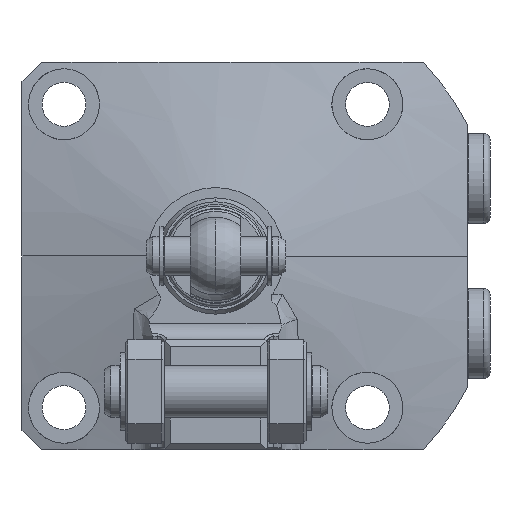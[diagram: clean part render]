
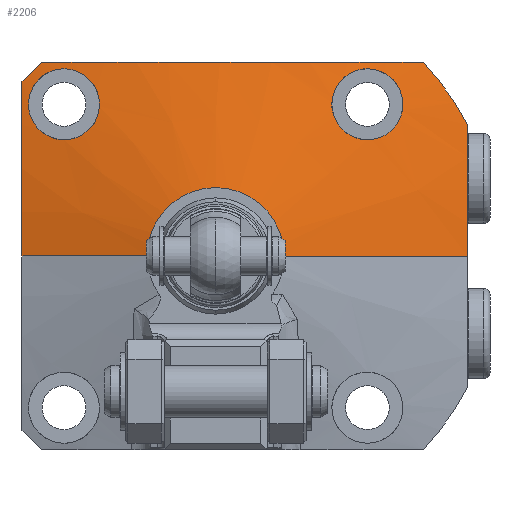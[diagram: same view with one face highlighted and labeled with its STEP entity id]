
A CAD part, left-side view. The second image highlights one B-rep face of the part: STEP entity #2206.
In plain terms, the highlighted conical face has half-angle 75 degrees and reference radius 44 mm.
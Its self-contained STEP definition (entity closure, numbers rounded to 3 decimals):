
#1509=B_SPLINE_CURVE_WITH_KNOTS('',3,(#11310,#11311,#11312,#11313,#11314,
#11315,#11316,#11317,#11318,#11319),.UNSPECIFIED.,.F.,.F.,(4,2,2,2,4),(0.,
0.25,0.5,0.75,1.),.UNSPECIFIED.);
#1510=B_SPLINE_CURVE_WITH_KNOTS('',3,(#11328,#11329,#11330,#11331,#11332,
#11333,#11334,#11335,#11336,#11337),.UNSPECIFIED.,.F.,.F.,(4,2,2,2,4),(0.,
0.25,0.5,0.75,1.),.UNSPECIFIED.);
#1518=B_SPLINE_CURVE_WITH_KNOTS('',3,(#11580,#11581,#11582,#11583),
 .UNSPECIFIED.,.F.,.F.,(4,4),(0.,1.),.UNSPECIFIED.);
#1519=B_SPLINE_CURVE_WITH_KNOTS('',3,(#11587,#11588,#11589,#11590,#11591,
#11592),.UNSPECIFIED.,.F.,.F.,(4,2,4),(0.,0.5,1.),.UNSPECIFIED.);
#1520=B_SPLINE_CURVE_WITH_KNOTS('',3,(#11594,#11595,#11596,#11597),
 .UNSPECIFIED.,.F.,.F.,(4,4),(0.,1.),.UNSPECIFIED.);
#1521=B_SPLINE_CURVE_WITH_KNOTS('',3,(#11599,#11600,#11601,#11602),
 .UNSPECIFIED.,.F.,.F.,(4,4),(0.,1.),.UNSPECIFIED.);
#1522=B_SPLINE_CURVE_WITH_KNOTS('',3,(#11603,#11604,#11605,#11606,#11607,
#11608,#11609,#11610,#11611,#11612),.UNSPECIFIED.,.F.,.F.,(4,2,2,2,4),(0.,
0.25,0.5,0.75,1.),.UNSPECIFIED.);
#1523=B_SPLINE_CURVE_WITH_KNOTS('',3,(#11613,#11614,#11615,#11616,#11617,
#11618,#11619,#11620,#11621,#11622),.UNSPECIFIED.,.F.,.F.,(4,2,2,2,4),(0.,
0.25,0.5,0.75,1.),.UNSPECIFIED.);
#1707=FACE_BOUND('',#3011,.T.);
#1708=FACE_BOUND('',#3012,.T.);
#1709=FACE_BOUND('',#3013,.T.);
#2206=ADVANCED_FACE('',(#1707,#1708,#1709),#2444,.T.);
#2444=CONICAL_SURFACE('',#8004,44.,75.);
#3011=EDGE_LOOP('',(#4752,#4753,#4754,#4755,#4756,#4757,#4758,#4759));
#3012=EDGE_LOOP('',(#4760,#4761));
#3013=EDGE_LOOP('',(#4762,#4763));
#3460=LINE('',#11523,#3807);
#3461=LINE('',#11578,#3808);
#3807=VECTOR('',#9485,1.);
#3808=VECTOR('',#9490,1.);
#4752=ORIENTED_EDGE('',*,*,#6694,.F.);
#4753=ORIENTED_EDGE('',*,*,#6700,.T.);
#4754=ORIENTED_EDGE('',*,*,#6701,.T.);
#4755=ORIENTED_EDGE('',*,*,#6702,.F.);
#4756=ORIENTED_EDGE('',*,*,#6703,.T.);
#4757=ORIENTED_EDGE('',*,*,#6704,.F.);
#4758=ORIENTED_EDGE('',*,*,#6705,.F.);
#4759=ORIENTED_EDGE('',*,*,#6706,.F.);
#4760=ORIENTED_EDGE('',*,*,#6613,.T.);
#4761=ORIENTED_EDGE('',*,*,#6707,.T.);
#4762=ORIENTED_EDGE('',*,*,#6609,.T.);
#4763=ORIENTED_EDGE('',*,*,#6708,.T.);
#5931=VERTEX_POINT('',#11309);
#5932=VERTEX_POINT('',#11320);
#5935=VERTEX_POINT('',#11327);
#5936=VERTEX_POINT('',#11338);
#6000=VERTEX_POINT('',#11522);
#6001=VERTEX_POINT('',#11524);
#6006=VERTEX_POINT('',#11577);
#6007=VERTEX_POINT('',#11579);
#6008=VERTEX_POINT('',#11584);
#6009=VERTEX_POINT('',#11586);
#6010=VERTEX_POINT('',#11593);
#6011=VERTEX_POINT('',#11598);
#6609=EDGE_CURVE('',#5932,#5931,#1509,.T.);
#6613=EDGE_CURVE('',#5936,#5935,#1510,.T.);
#6694=EDGE_CURVE('',#6000,#6001,#3460,.T.);
#6700=EDGE_CURVE('',#6000,#6006,#7357,.T.);
#6701=EDGE_CURVE('',#6006,#6007,#3461,.T.);
#6702=EDGE_CURVE('',#6008,#6007,#1518,.T.);
#6703=EDGE_CURVE('',#6008,#6009,#7358,.T.);
#6704=EDGE_CURVE('',#6010,#6009,#1519,.T.);
#6705=EDGE_CURVE('',#6011,#6010,#1520,.T.);
#6706=EDGE_CURVE('',#6001,#6011,#1521,.T.);
#6707=EDGE_CURVE('',#5935,#5936,#1522,.T.);
#6708=EDGE_CURVE('',#5931,#5932,#1523,.T.);
#7357=CIRCLE('',#8002,10.598);
#7358=CIRCLE('',#8003,44.);
#8002=AXIS2_PLACEMENT_3D('',#11576,#9488,#9489);
#8003=AXIS2_PLACEMENT_3D('',#11585,#9491,#9492);
#8004=AXIS2_PLACEMENT_3D('',#11623,#9493,#9494);
#9485=DIRECTION('',(0.259,0.966,0.));
#9488=DIRECTION('',(1.,0.,0.));
#9489=DIRECTION('',(0.,0.,1.));
#9490=DIRECTION('',(0.259,-0.966,0.));
#9491=DIRECTION('',(-1.,0.,0.));
#9492=DIRECTION('',(0.,1.,0.));
#9493=DIRECTION('',(1.,0.,0.));
#9494=DIRECTION('',(0.,1.,0.));
#11309=CARTESIAN_POINT('',(-22.908,-23.5,18.));
#11310=CARTESIAN_POINT('',(-20.838,-23.5,29.));
#11311=CARTESIAN_POINT('',(-20.592,-24.957,29.));
#11312=CARTESIAN_POINT('',(-20.458,-26.404,28.393));
#11313=CARTESIAN_POINT('',(-20.464,-28.446,26.313));
#11314=CARTESIAN_POINT('',(-20.607,-29.025,24.846));
#11315=CARTESIAN_POINT('',(-21.103,-28.973,21.959));
#11316=CARTESIAN_POINT('',(-21.454,-28.36,20.559));
#11317=CARTESIAN_POINT('',(-22.206,-26.331,18.576));
#11318=CARTESIAN_POINT('',(-22.601,-24.945,18.));
#11319=CARTESIAN_POINT('',(-22.908,-23.5,18.));
#11320=CARTESIAN_POINT('',(-20.838,-23.5,29.));
#11327=CARTESIAN_POINT('',(-22.908,23.5,18.));
#11328=CARTESIAN_POINT('',(-20.838,23.5,29.));
#11329=CARTESIAN_POINT('',(-21.084,22.04,29.));
#11330=CARTESIAN_POINT('',(-21.432,20.637,28.404));
#11331=CARTESIAN_POINT('',(-22.18,18.626,26.414));
#11332=CARTESIAN_POINT('',(-22.582,18.024,25.014));
#11333=CARTESIAN_POINT('',(-23.196,17.978,22.164));
#11334=CARTESIAN_POINT('',(-23.404,18.546,20.696));
#11335=CARTESIAN_POINT('',(-23.413,20.603,18.599));
#11336=CARTESIAN_POINT('',(-23.216,22.052,18.));
#11337=CARTESIAN_POINT('',(-22.908,23.5,18.));
#11338=CARTESIAN_POINT('',(-20.838,23.5,29.));
#11522=CARTESIAN_POINT('',(-28.,10.598,0.));
#11523=CARTESIAN_POINT('',(-19.05,44.,0.));
#11524=CARTESIAN_POINT('',(-22.801,30.,0.));
#11576=CARTESIAN_POINT('',(-28.,0.,0.));
#11577=CARTESIAN_POINT('',(-28.,-10.598,0.));
#11578=CARTESIAN_POINT('',(-19.05,-44.,0.));
#11579=CARTESIAN_POINT('',(-20.39,-39.,0.));
#11580=CARTESIAN_POINT('',(-19.05,-39.,20.372));
#11581=CARTESIAN_POINT('',(-19.889,-39.,13.607));
#11582=CARTESIAN_POINT('',(-20.39,-39.,6.82));
#11583=CARTESIAN_POINT('',(-20.39,-39.,0.));
#11584=CARTESIAN_POINT('',(-19.05,-39.,20.372));
#11585=CARTESIAN_POINT('',(-19.05,0.,0.));
#11586=CARTESIAN_POINT('',(-19.05,-32.187,30.));
#11587=CARTESIAN_POINT('',(-20.025,27.,30.));
#11588=CARTESIAN_POINT('',(-21.782,17.196,30.));
#11589=CARTESIAN_POINT('',(-22.995,7.367,30.));
#11590=CARTESIAN_POINT('',(-22.55,-12.423,30.));
#11591=CARTESIAN_POINT('',(-20.973,-22.374,30.));
#11592=CARTESIAN_POINT('',(-19.05,-32.187,30.));
#11593=CARTESIAN_POINT('',(-20.025,27.,30.));
#11594=CARTESIAN_POINT('',(-20.025,30.,27.));
#11595=CARTESIAN_POINT('',(-20.045,29.,28.));
#11596=CARTESIAN_POINT('',(-20.045,28.,29.));
#11597=CARTESIAN_POINT('',(-20.025,27.,30.));
#11598=CARTESIAN_POINT('',(-20.025,30.,27.));
#11599=CARTESIAN_POINT('',(-22.801,30.,0.));
#11600=CARTESIAN_POINT('',(-22.801,30.,9.095));
#11601=CARTESIAN_POINT('',(-21.626,30.,18.069));
#11602=CARTESIAN_POINT('',(-20.025,30.,27.));
#11603=CARTESIAN_POINT('',(-22.908,23.5,18.));
#11604=CARTESIAN_POINT('',(-22.601,24.946,18.));
#11605=CARTESIAN_POINT('',(-22.204,26.334,18.579));
#11606=CARTESIAN_POINT('',(-21.456,28.355,20.555));
#11607=CARTESIAN_POINT('',(-21.103,28.972,21.961));
#11608=CARTESIAN_POINT('',(-20.609,29.026,24.83));
#11609=CARTESIAN_POINT('',(-20.465,28.455,26.301));
#11610=CARTESIAN_POINT('',(-20.458,26.405,28.395));
#11611=CARTESIAN_POINT('',(-20.592,24.958,29.));
#11612=CARTESIAN_POINT('',(-20.838,23.5,29.));
#11613=CARTESIAN_POINT('',(-22.908,-23.5,18.));
#11614=CARTESIAN_POINT('',(-23.216,-22.052,18.));
#11615=CARTESIAN_POINT('',(-23.412,-20.605,18.601));
#11616=CARTESIAN_POINT('',(-23.405,-18.556,20.682));
#11617=CARTESIAN_POINT('',(-23.2,-17.979,22.146));
#11618=CARTESIAN_POINT('',(-22.581,-18.022,25.02));
#11619=CARTESIAN_POINT('',(-22.181,-18.622,26.411));
#11620=CARTESIAN_POINT('',(-21.431,-20.641,28.408));
#11621=CARTESIAN_POINT('',(-21.084,-22.04,29.));
#11622=CARTESIAN_POINT('',(-20.838,-23.5,29.));
#11623=CARTESIAN_POINT('',(-19.05,0.,0.));
